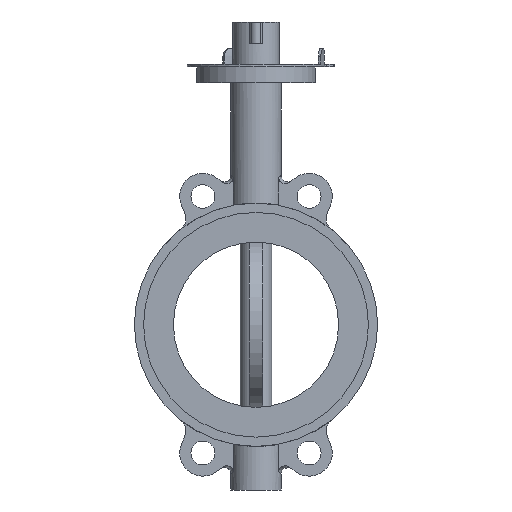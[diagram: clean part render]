
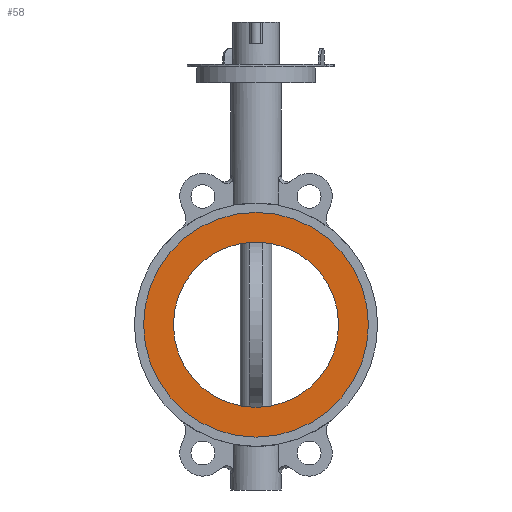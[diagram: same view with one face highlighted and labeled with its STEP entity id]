
A CAD part, left-side view. The second image highlights one B-rep face of the part: STEP entity #58.
In plain terms, the highlighted planar face has unit normal (-1, 0, 0).
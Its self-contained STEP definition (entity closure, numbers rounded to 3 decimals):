
#58=ADVANCED_FACE('',(#6907,#6909),#6911,.F.);
#6907=FACE_BOUND('',#6908,.T.);
#6908=EDGE_LOOP('',(#12772));
#6909=FACE_BOUND('',#6910,.T.);
#6910=EDGE_LOOP('',(#12773));
#6911=PLANE('',#6912);
#6912=AXIS2_PLACEMENT_3D('',#6913,#6914,#6915);
#6913=CARTESIAN_POINT('',(-28.,0.,0.));
#6914=DIRECTION('',(1.,0.,0.));
#6915=DIRECTION('',(0.,1.,0.));
#12772=ORIENTED_EDGE('',*,*,#17177,.T.);
#12773=ORIENTED_EDGE('',*,*,#17178,.T.);
#17177=EDGE_CURVE('',#19411,#19411,#19412,.F.);
#17178=EDGE_CURVE('',#19413,#19413,#19414,.T.);
#19411=VERTEX_POINT('',#23098);
#19412=CIRCLE('',#23099,85.);
#19413=VERTEX_POINT('',#23103);
#19414=CIRCLE('',#23104,62.5);
#23098=CARTESIAN_POINT('',(-28.,85.,0.));
#23099=AXIS2_PLACEMENT_3D('',#23100,#23101,#23102);
#23100=CARTESIAN_POINT('',(-28.,0.,0.));
#23101=DIRECTION('',(1.,0.,0.));
#23102=DIRECTION('',(0.,1.,0.));
#23103=CARTESIAN_POINT('',(-28.,62.5,0.));
#23104=AXIS2_PLACEMENT_3D('',#23105,#23106,#23107);
#23105=CARTESIAN_POINT('',(-28.,0.,0.));
#23106=DIRECTION('',(1.,0.,0.));
#23107=DIRECTION('',(0.,1.,0.));
